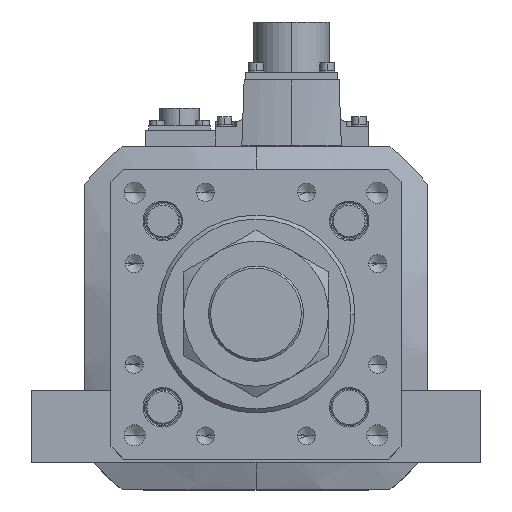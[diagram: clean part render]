
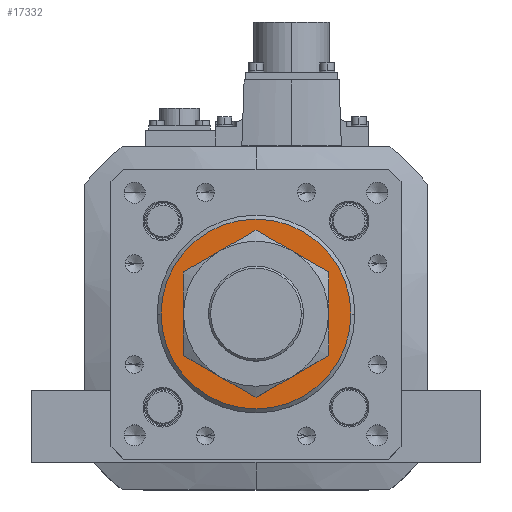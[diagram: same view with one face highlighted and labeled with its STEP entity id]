
A CAD part, top view. The second image highlights one B-rep face of the part: STEP entity #17332.
In plain terms, the highlighted planar face has unit normal (0, 0, 1).
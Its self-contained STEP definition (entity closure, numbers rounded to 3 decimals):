
#1375 = CARTESIAN_POINT ( 'NONE',  ( -36., 0., 646. ) ) ;
#2065 = CIRCLE ( 'NONE', #30838, 36. ) ;
#2299 = CIRCLE ( 'NONE', #5896, 23. ) ;
#2333 = CARTESIAN_POINT ( 'NONE',  ( 0., 0., 646. ) ) ;
#2477 = DIRECTION ( 'NONE',  ( 1., 0., 0. ) ) ;
#2630 = ORIENTED_EDGE ( 'NONE', *, *, #29560, .T. ) ;
#3032 = AXIS2_PLACEMENT_3D ( 'NONE', #34753, #31862, #35142 ) ;
#4174 = CARTESIAN_POINT ( 'NONE',  ( -23., 0., 646. ) ) ;
#5338 = DIRECTION ( 'NONE',  ( 0., 0., -1. ) ) ;
#5896 = AXIS2_PLACEMENT_3D ( 'NONE', #32199, #14181, #2477 ) ;
#5904 = VERTEX_POINT ( 'NONE', #1375 ) ;
#8059 = PLANE ( 'NONE',  #3032 ) ;
#10158 = CARTESIAN_POINT ( 'NONE',  ( 36., 0., 646. ) ) ;
#12357 = VERTEX_POINT ( 'NONE', #10158 ) ;
#12886 = DIRECTION ( 'NONE',  ( 0., 0., 1. ) ) ;
#13143 = EDGE_CURVE ( 'NONE', #25496, #24274, #2299, .T. ) ;
#13830 = ORIENTED_EDGE ( 'NONE', *, *, #18548, .T. ) ;
#14181 = DIRECTION ( 'NONE',  ( 0., 0., -1. ) ) ;
#14279 = FACE_OUTER_BOUND ( 'NONE', #37513, .T. ) ;
#14437 = CIRCLE ( 'NONE', #21725, 23. ) ;
#15695 = FACE_BOUND ( 'NONE', #24666, .T. ) ;
#16627 = DIRECTION ( 'NONE',  ( 0., 0., 1. ) ) ;
#17332 = ADVANCED_FACE ( 'NONE', ( #15695, #14279 ), #8059, .T. ) ;
#18548 = EDGE_CURVE ( 'NONE', #12357, #5904, #29699, .T. ) ;
#19199 = DIRECTION ( 'NONE',  ( 1., 0., 0. ) ) ;
#19421 = AXIS2_PLACEMENT_3D ( 'NONE', #25100, #12886, #19199 ) ;
#21725 = AXIS2_PLACEMENT_3D ( 'NONE', #2333, #5338, #29534 ) ;
#24274 = VERTEX_POINT ( 'NONE', #4174 ) ;
#24666 = EDGE_LOOP ( 'NONE', ( #25212, #29196 ) ) ;
#25100 = CARTESIAN_POINT ( 'NONE',  ( 0., 0., 646. ) ) ;
#25212 = ORIENTED_EDGE ( 'NONE', *, *, #13143, .T. ) ;
#25496 = VERTEX_POINT ( 'NONE', #28278 ) ;
#25548 = CARTESIAN_POINT ( 'NONE',  ( 0., 0., 646. ) ) ;
#25816 = DIRECTION ( 'NONE',  ( 1., 0., 0. ) ) ;
#28278 = CARTESIAN_POINT ( 'NONE',  ( 23., 0., 646. ) ) ;
#29196 = ORIENTED_EDGE ( 'NONE', *, *, #38064, .T. ) ;
#29534 = DIRECTION ( 'NONE',  ( 1., 0., 0. ) ) ;
#29560 = EDGE_CURVE ( 'NONE', #5904, #12357, #2065, .T. ) ;
#29699 = CIRCLE ( 'NONE', #19421, 36. ) ;
#30838 = AXIS2_PLACEMENT_3D ( 'NONE', #25548, #16627, #25816 ) ;
#31862 = DIRECTION ( 'NONE',  ( 0., 0., 1. ) ) ;
#32199 = CARTESIAN_POINT ( 'NONE',  ( 0., 0., 646. ) ) ;
#34753 = CARTESIAN_POINT ( 'NONE',  ( 0., 0., 646. ) ) ;
#35142 = DIRECTION ( 'NONE',  ( 1., 0., 0. ) ) ;
#37513 = EDGE_LOOP ( 'NONE', ( #2630, #13830 ) ) ;
#38064 = EDGE_CURVE ( 'NONE', #24274, #25496, #14437, .T. ) ;
